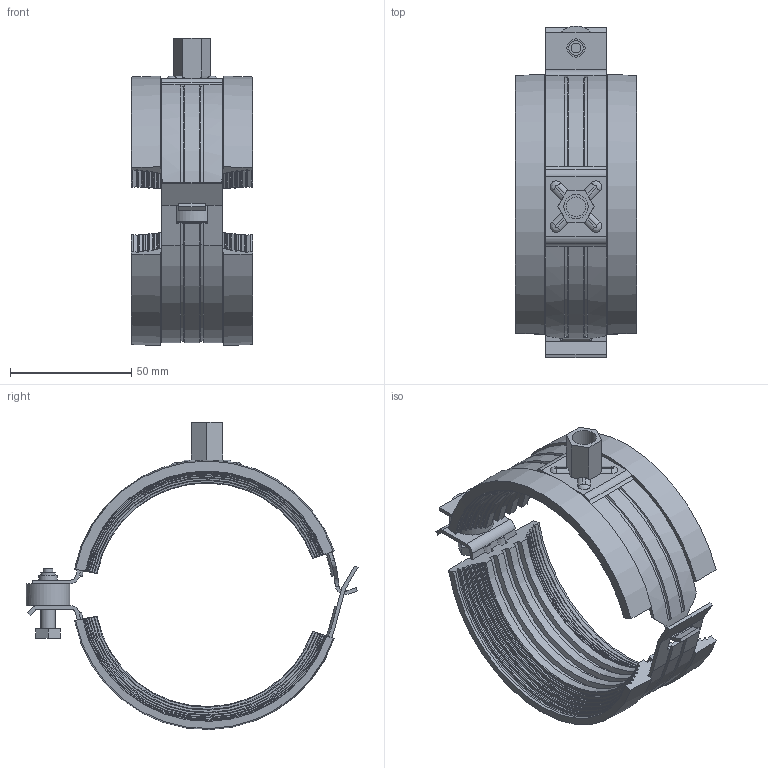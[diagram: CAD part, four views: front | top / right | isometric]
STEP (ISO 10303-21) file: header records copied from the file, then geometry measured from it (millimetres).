
FILE_DESCRIPTION(/* description */ (''),/* implementation_level */ '2;1');
FILE_NAME(/* name */ 'H:\Geberit-Teile\Export\Rohrschelle Si\stp\393499.stp',/* time_stamp */ '2017-02-14T11:11:56+01:00',/* author */ ('seihe2'),/* organization */ (''),/* preprocessor_version */ 'ST-DEVELOPER v15.2',/* originating_system */ 'Autodesk Inventor 2014',/* authorisation */ '');
FILE_SCHEMA (('AUTOMOTIVE_DESIGN { 1 0 10303 214 3 1 1 }'));
Length unit declared in the file: millimetre
Products named in the file (1): 393499
Bounding box: 50 x 136.95 x 126.69 mm (x, y, z)
Volume: 92270.1 mm3; surface area: 53511.6 mm2
Topology: 1 solids, 1 shells, 342 faces, 974 edges, 624 vertices
Faces by surface type: plane 98, cylinder 92, cone 84, torus 50, bspline 18
Full cylindrical faces by diameter (mm): 4 x1, 6 x2, 7.5 x1, 8 x1, 10 x1, 18.16 x1
Entity records: 11788 total; most frequent: CARTESIAN_POINT 2216, DIRECTION 2041, ORIENTED_EDGE 1940, EDGE_CURVE 967, AXIS2_PLACEMENT_3D 767, VERTEX_POINT 622, LINE 507, VECTOR 507
